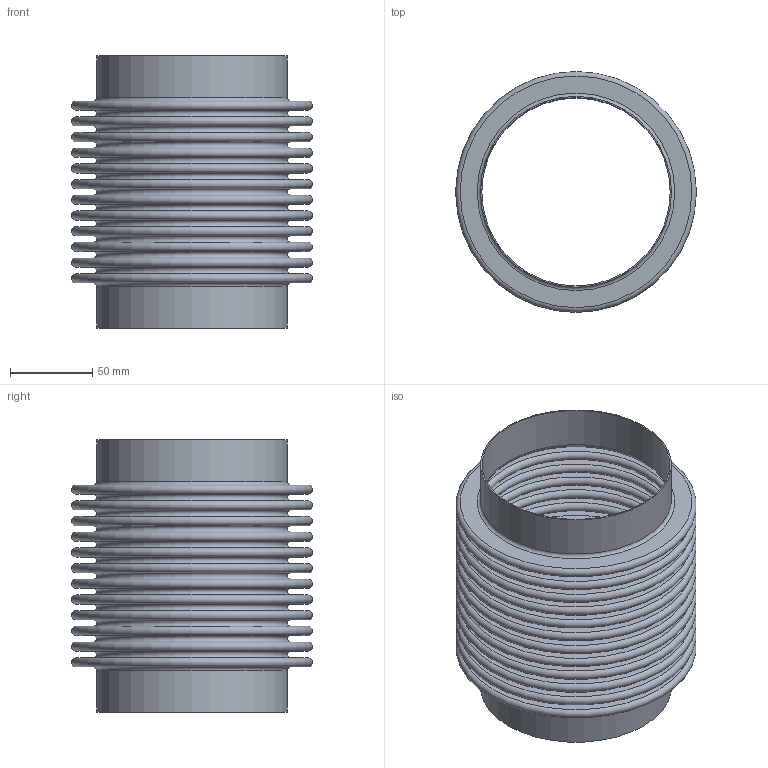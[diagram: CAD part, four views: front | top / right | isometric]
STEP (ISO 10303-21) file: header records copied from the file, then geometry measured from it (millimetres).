
FILE_DESCRIPTION(/* description */ ('STOCK BELLOWS: U.S-4-12-150L, 4.500 I.D., 5.750 O.D., 1 PLY, 22 GA (0.030 THICK), 12 CONS., 0.375 PITCH, 1.000 TANGENT. '),/* implementation_level */ '2;1');
FILE_NAME(/* name */ 'STOCK BELLOW - US-4-12-150L.stp',/* time_stamp */ '2026-07-21T12:56:22-05:00',/* author */ ('KennethB'),/* organization */ (''),/* preprocessor_version */ 'ST-DEVELOPER v20.1',/* originating_system */ 'Autodesk Inventor 2026',/* authorisation */ '');
FILE_SCHEMA (('AUTOMOTIVE_DESIGN { 1 0 10303 214 3 1 1 }'));
Length unit declared in the file: inch
Products named in the file (1): STOCK BELLOW - US-4-12-150L
Bounding box: 146.05 x 146.05 x 165.1 mm (x, y, z)
Volume: 147353.9 mm3; surface area: 388408.3 mm2
Topology: 3 solids, 3 shells, 108 faces, 162 edges, 109 vertices
Faces by surface type: plane 54, torus 50, cylinder 4
Full cylindrical faces by diameter (mm): 114.3 x2, 115.824 x2
Entity records: 2550 total; most frequent: DIRECTION 538, CARTESIAN_POINT 380, ORIENTED_EDGE 324, AXIS2_PLACEMENT_3D 267, EDGE_LOOP 162, EDGE_CURVE 162, CIRCLE 158, FACE_OUTER_BOUND 108
